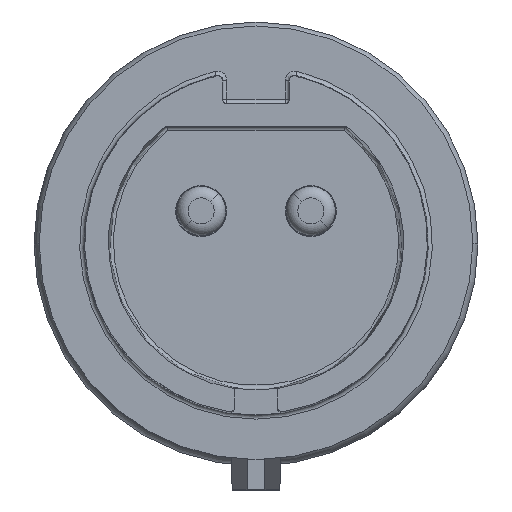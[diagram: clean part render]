
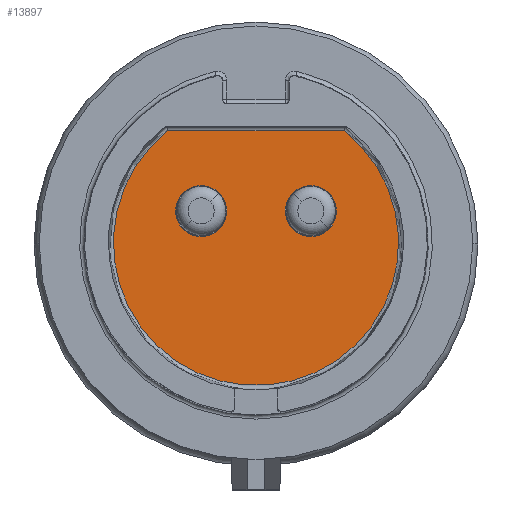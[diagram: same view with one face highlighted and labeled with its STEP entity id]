
A CAD part, top view. The second image highlights one B-rep face of the part: STEP entity #13897.
In plain terms, the highlighted planar face has unit normal (0, 0, 1).
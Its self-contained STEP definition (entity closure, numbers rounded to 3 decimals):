
#1930=DIRECTION('',(1.,0.,0.));
#1931=VECTOR('',#1930,21.427);
#1932=CARTESIAN_POINT('',(-10.713,13.65,23.5));
#1933=LINE('1058',#1932,#1931);
#1934=CARTESIAN_POINT('',(0.,0.,23.5));
#1935=DIRECTION('',(0.,0.,1.));
#1936=DIRECTION('',(-0.617,0.787,0.));
#1937=AXIS2_PLACEMENT_3D('',#1934,#1935,#1936);
#1939=CARTESIAN_POINT('',(6.668,3.85,23.5));
#1940=DIRECTION('',(0.,0.,1.));
#1941=DIRECTION('',(-1.,0.,0.));
#1942=AXIS2_PLACEMENT_3D('',#1939,#1940,#1941);
#1944=CARTESIAN_POINT('',(6.668,3.85,23.5));
#1945=DIRECTION('',(0.,0.,1.));
#1946=DIRECTION('',(1.,0.,0.));
#1947=AXIS2_PLACEMENT_3D('',#1944,#1945,#1946);
#1949=CARTESIAN_POINT('',(-6.668,3.85,23.5));
#1950=DIRECTION('',(0.,0.,1.));
#1951=DIRECTION('',(-1.,0.,0.));
#1952=AXIS2_PLACEMENT_3D('',#1949,#1950,#1951);
#1954=CARTESIAN_POINT('',(-6.668,3.85,23.5));
#1955=DIRECTION('',(0.,0.,1.));
#1956=DIRECTION('',(1.,0.,0.));
#1957=AXIS2_PLACEMENT_3D('',#1954,#1955,#1956);
#9319=CARTESIAN_POINT('',(3.568,3.85,23.5));
#9320=CARTESIAN_POINT('',(9.768,3.85,23.5));
#9321=VERTEX_POINT('',#9319);
#9322=VERTEX_POINT('',#9320);
#9323=CARTESIAN_POINT('',(-9.768,3.85,23.5));
#9324=CARTESIAN_POINT('',(-3.568,3.85,23.5));
#9325=VERTEX_POINT('',#9323);
#9326=VERTEX_POINT('',#9324);
#9327=CARTESIAN_POINT('',(-10.713,13.65,23.5));
#9328=CARTESIAN_POINT('',(10.713,13.65,23.5));
#9329=VERTEX_POINT('',#9327);
#9330=VERTEX_POINT('',#9328);
#13876=CARTESIAN_POINT('',(0.,0.,23.5));
#13877=DIRECTION('',(0.,0.,-1.));
#13878=DIRECTION('',(0.,1.,0.));
#13879=AXIS2_PLACEMENT_3D('',#13876,#13877,#13878);
#13880=PLANE('398',#13879);
#13881=ORIENTED_EDGE('1058',*,*,#13860,.T.);
#13882=ORIENTED_EDGE('1061',*,*,#13841,.F.);
#13883=EDGE_LOOP('398',(#13881,#13882));
#13884=FACE_OUTER_BOUND('398',#13883,.F.);
#13886=ORIENTED_EDGE('1054',*,*,#13885,.T.);
#13888=ORIENTED_EDGE('1055',*,*,#13887,.T.);
#13889=EDGE_LOOP('398',(#13886,#13888));
#13890=FACE_BOUND('398',#13889,.F.);
#13892=ORIENTED_EDGE('1056',*,*,#13891,.T.);
#13894=ORIENTED_EDGE('1057',*,*,#13893,.T.);
#13895=EDGE_LOOP('398',(#13892,#13894));
#13896=FACE_BOUND('398',#13895,.F.);
#1938=CIRCLE('1061',#1937,17.352);
#1943=CIRCLE('1054',#1942,3.1);
#1948=CIRCLE('1055',#1947,3.1);
#1953=CIRCLE('1056',#1952,3.1);
#1958=CIRCLE('1057',#1957,3.1);
#13841=EDGE_CURVE('1061',#9329,#9330,#1938,.T.);
#13860=EDGE_CURVE('1058',#9329,#9330,#1933,.T.);
#13885=EDGE_CURVE('1054',#9321,#9322,#1943,.T.);
#13887=EDGE_CURVE('1055',#9322,#9321,#1948,.T.);
#13891=EDGE_CURVE('1056',#9325,#9326,#1953,.T.);
#13893=EDGE_CURVE('1057',#9326,#9325,#1958,.T.);
#13897=ADVANCED_FACE('398',(#13884,#13890,#13896),#13880,.F.);
